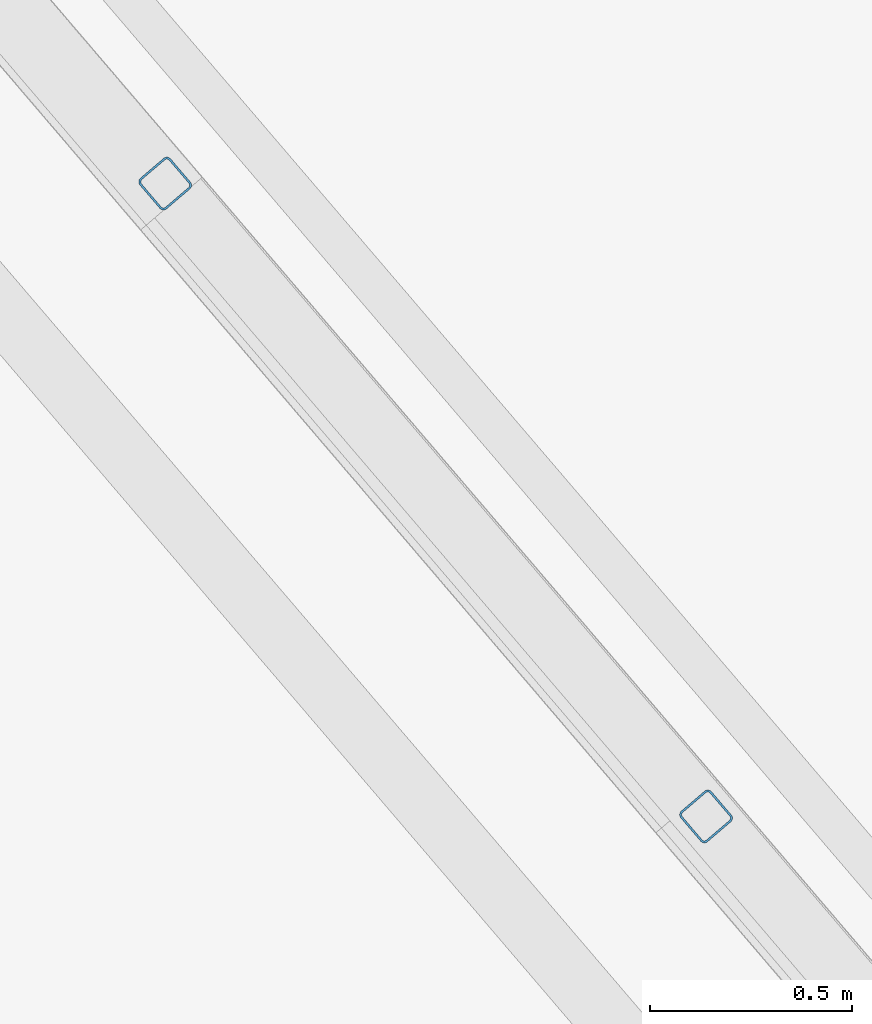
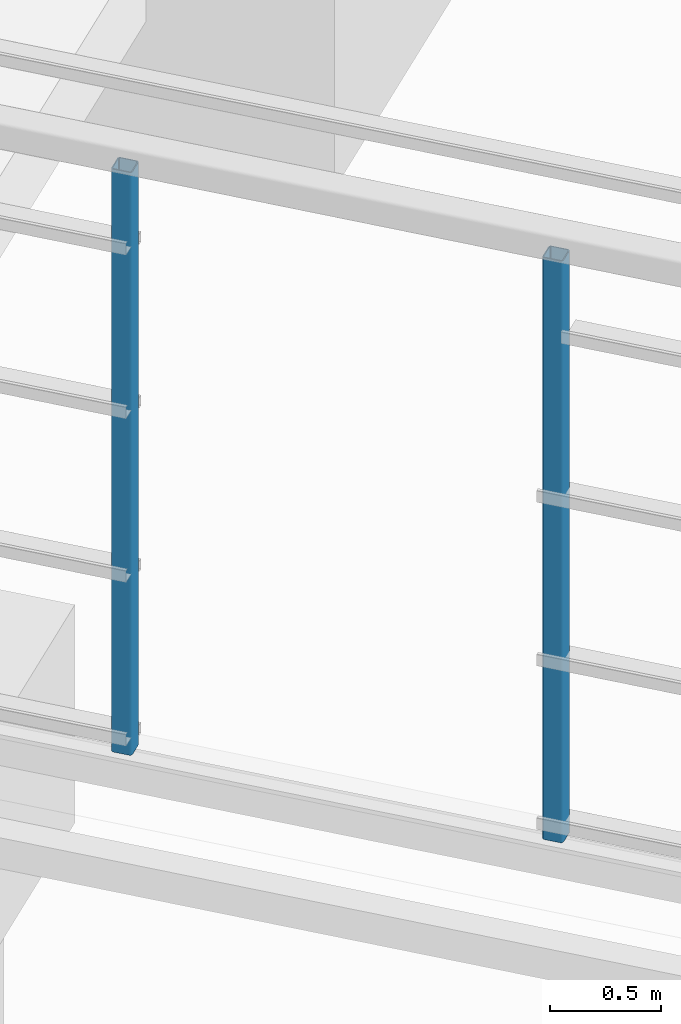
# One storey, part 4 of 41: 2 columns.
"""IFC2X3 building model written with IfcOpenShell, lengths in millimetres."""

from ifc_helpers import new_model, entity, si_unit, converted_unit, derived_unit, direction, frame, frame_2d, origin, place, context, subcontext, project, spatial, polyline, circle_curve, parameter, trimmed, segment, composite_curve, outline, extrude, source, transform, mapped, material, type_object, type_shapes, element, save


model = new_model("IFC2X3")

# Units and contexts
model_context = context("Model", 3, precision=0.01, world=origin(), true_north=direction((6.123031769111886e-17, 1.0)))
body_context = subcontext(model_context, "Body", "Model", "MODEL_VIEW")
ifc_project = project(units=[si_unit("LENGTHUNIT", "METRE", prefix="MILLI"), si_unit("AREAUNIT", "SQUARE_METRE"), si_unit("VOLUMEUNIT", "CUBIC_METRE"), converted_unit("PLANEANGLEUNIT", "DEGREE", entity("IfcRatioMeasure", 0.017453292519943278), si_unit("PLANEANGLEUNIT", "RADIAN"), dimensions=[0, 0, 0, 0, 0, 0, 0]), si_unit("MASSUNIT", "GRAM", prefix="KILO"), derived_unit("MASSDENSITYUNIT", [(si_unit("MASSUNIT", "GRAM", prefix="KILO"), 1), (si_unit("LENGTHUNIT", "METRE"), -3)]), derived_unit("MOMENTOFINERTIAUNIT", [(si_unit("LENGTHUNIT", "METRE"), 4)]), si_unit("TIMEUNIT", "SECOND"), si_unit("FREQUENCYUNIT", "HERTZ"), si_unit("THERMODYNAMICTEMPERATUREUNIT", "DEGREE_CELSIUS"), derived_unit("THERMALTRANSMITTANCEUNIT", [(si_unit("MASSUNIT", "GRAM", prefix="KILO"), 1), (si_unit("THERMODYNAMICTEMPERATUREUNIT", "KELVIN"), -1), (si_unit("TIMEUNIT", "SECOND"), -3)]), derived_unit("VOLUMETRICFLOWRATEUNIT", [(si_unit("LENGTHUNIT", "METRE"), 3), (si_unit("TIMEUNIT", "SECOND"), -1)]), derived_unit("MASSFLOWRATEUNIT", [(si_unit("MASSUNIT", "GRAM", prefix="KILO"), 1), (si_unit("TIMEUNIT", "SECOND"), -1)]), derived_unit("ROTATIONALFREQUENCYUNIT", [(si_unit("TIMEUNIT", "SECOND"), -1)]), si_unit("ELECTRICCURRENTUNIT", "AMPERE"), si_unit("ELECTRICVOLTAGEUNIT", "VOLT"), si_unit("POWERUNIT", "WATT"), si_unit("FORCEUNIT", "NEWTON", prefix="KILO"), si_unit("ILLUMINANCEUNIT", "LUX"), si_unit("LUMINOUSFLUXUNIT", "LUMEN"), si_unit("LUMINOUSINTENSITYUNIT", "CANDELA"), derived_unit("USERDEFINED", [(si_unit("MASSUNIT", "GRAM", prefix="KILO"), -1), (si_unit("LENGTHUNIT", "METRE"), -2), (si_unit("TIMEUNIT", "SECOND"), 3), (si_unit("LUMINOUSFLUXUNIT", "LUMEN"), 1)]), derived_unit("SOUNDPOWERUNIT", [(si_unit("MASSUNIT", "GRAM", prefix="KILO"), 1), (si_unit("LENGTHUNIT", "METRE"), 2), (si_unit("TIMEUNIT", "SECOND"), -3)]), derived_unit("LINEARVELOCITYUNIT", [(si_unit("LENGTHUNIT", "METRE"), 1), (si_unit("TIMEUNIT", "SECOND"), -1)]), si_unit("PRESSUREUNIT", "PASCAL"), derived_unit("USERDEFINED", [(si_unit("LENGTHUNIT", "METRE"), -2), (si_unit("MASSUNIT", "GRAM", prefix="KILO"), 1), (si_unit("TIMEUNIT", "SECOND"), -2)]), derived_unit("LINEARFORCEUNIT", [(si_unit("MASSUNIT", "GRAM", prefix="KILO"), 1), (si_unit("LENGTHUNIT", "METRE"), 1), (si_unit("TIMEUNIT", "SECOND"), -2), (si_unit("LENGTHUNIT", "METRE"), -1)]), derived_unit("PLANARFORCEUNIT", [(si_unit("MASSUNIT", "GRAM", prefix="KILO"), 1), (si_unit("LENGTHUNIT", "METRE"), 1), (si_unit("TIMEUNIT", "SECOND"), -2), (si_unit("LENGTHUNIT", "METRE"), -2)])], contexts=[model_context])

# Site, building, storey
site_placement = place(None, frame((962.4174930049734, -6014.433753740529, 0.0), z_axis=(0.0, 0.0, 1.0), x_axis=(0.7601792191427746, 0.649713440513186, 0.0)))
site = spatial("IfcSite", under=ifc_project, at=site_placement, Name="Default", CompositionType="ELEMENT")
building_placement = place(site_placement, origin())
building = spatial("IfcBuilding", under=site, at=building_placement, CompositionType="ELEMENT")
storey_placement = place(building_placement, origin())
storey = spatial("IfcBuildingStorey", under=building, at=storey_placement, Name="Datum", CompositionType="ELEMENT", Elevation=0.0)

# Columns
ifc_material = material(Name="Metal - Steel - 300 MPa")
column_type_1 = type_object("IfcColumnType", Name="ADSK_AU_SHS-Square Hollow Sections-Column (AS 1163_C350):100x100x5.0SHS", PredefinedType="COLUMN", material=ifc_material)
shared_shape_1 = source(origin(), body_context, "Body", "SweptSolid", [
    extrude(outline(composite_curve([segment(trimmed(circle_curve(frame_2d((37.499999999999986, -37.50000000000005), x_axis=(1.0, 0.0)), 12.499999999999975), [parameter(270.0000000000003)], [parameter(3.5622212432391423e-13)], True, "PARAMETER"), True, "CONTINUOUS"), segment(polyline([(50.0, -37.50000000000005), (50.0, 37.49999999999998)]), True, "CONTINUOUS"), segment(trimmed(circle_curve(frame_2d((37.499999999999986, 37.49999999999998), x_axis=(1.0, 0.0)), 12.499999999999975), [parameter(4.0711099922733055e-13)], [parameter(90.00000000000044)], True, "PARAMETER"), True, "CONTINUOUS"), segment(polyline([(37.499999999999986, 50.0), (-37.49999999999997, 50.0)]), True, "CONTINUOUS"), segment(trimmed(circle_curve(frame_2d((-37.499999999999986, 37.499999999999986), x_axis=(1.0, 0.0)), 12.499999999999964), [parameter(90.00000000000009)], [parameter(179.99999999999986)], True, "PARAMETER"), True, "CONTINUOUS"), segment(polyline([(-50.0, 37.50000000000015), (-50.0, -37.50000000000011)]), True, "CONTINUOUS"), segment(trimmed(circle_curve(frame_2d((-37.499999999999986, -37.500000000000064), x_axis=(1.0, 0.0)), 12.499999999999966), [parameter(179.99999999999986)], [parameter(269.9999999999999)], True, "PARAMETER"), True, "CONTINUOUS"), segment(polyline([(-37.50000000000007, -50.0), (37.50000000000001, -50.0)]), True, "CONTINUOUS")], self_intersect=False), holes=[composite_curve([segment(polyline([(37.49999999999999, -45.0), (-37.50000000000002, -45.0)]), True, "CONTINUOUS"), segment(trimmed(circle_curve(frame_2d((-37.499999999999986, -37.500000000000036), x_axis=(1.0, 0.0)), 7.500000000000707), [parameter(179.9999999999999)], [parameter(269.99999999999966)], True, "PARAMETER"), False, "CONTINUOUS"), segment(polyline([(-45.0, -37.500000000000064), (-45.0, 37.49999999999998)]), True, "CONTINUOUS"), segment(trimmed(circle_curve(frame_2d((-37.499999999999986, 37.499999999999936), x_axis=(1.0, 0.0)), 7.499999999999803), [parameter(89.99999999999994)], [parameter(179.9999999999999)], True, "PARAMETER"), False, "CONTINUOUS"), segment(polyline([(-37.50000000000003, 45.0), (37.50000000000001, 45.0)]), True, "CONTINUOUS"), segment(trimmed(circle_curve(frame_2d((37.499999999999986, 37.499999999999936), x_axis=(1.0, 0.0)), 7.499999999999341), [parameter(3.053332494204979e-13)], [parameter(89.99999999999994)], True, "PARAMETER"), False, "CONTINUOUS"), segment(polyline([(45.0, 37.49999999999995), (45.0, -37.50000000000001)]), True, "CONTINUOUS"), segment(trimmed(circle_curve(frame_2d((37.499999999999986, -37.500000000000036), x_axis=(1.0, 0.0)), 7.500000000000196), [parameter(270.00000000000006)], [parameter(2.0355549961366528e-13)], True, "PARAMETER"), False, "CONTINUOUS")], self_intersect=False)]), origin(), (0.0, 0.0, 1.0), 3200.0),
])
type_shapes(column_type_1, [shared_shape_1])
column_1_placement = place(storey_placement, frame((154187.96020470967, -961.4280821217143, 0.0), z_axis=(0.0, 0.0, 1.0), x_axis=(0.0, -1.0, 0.0)))
element("IfcColumn", 1, at=column_1_placement, inside=storey, type_object=column_type_1, material=ifc_material, Name="ADSK_AU_SHS-Square Hollow Sections-Column (AS 1163_C350):100x100x5.0SHS", ObjectType="ADSK_AU_SHS-Square Hollow Sections-Column (AS 1163_C350):100x100x5.0SHS", context=body_context, shape_type="MappedRepresentation", body=[
    mapped(shared_shape_1, transform((0.0, 0.0, 0.0), scale=1.0)),
])
column_type_2 = type_object("IfcColumnType", Name="ADSK_AU_SHS-Square Hollow Sections-Column (AS 1163_C350):100x100x5.0SHS", PredefinedType="COLUMN", material=ifc_material)
shared_shape_2 = source(origin(), body_context, "Body", "SweptSolid", [
    extrude(outline(composite_curve([segment(trimmed(circle_curve(frame_2d((37.499999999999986, -37.50000000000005), x_axis=(1.0, 0.0)), 12.499999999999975), [parameter(270.0000000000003)], [parameter(3.5622212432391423e-13)], True, "PARAMETER"), True, "CONTINUOUS"), segment(polyline([(50.0, -37.50000000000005), (50.0, 37.49999999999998)]), True, "CONTINUOUS"), segment(trimmed(circle_curve(frame_2d((37.499999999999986, 37.49999999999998), x_axis=(1.0, 0.0)), 12.499999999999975), [parameter(4.0711099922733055e-13)], [parameter(90.00000000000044)], True, "PARAMETER"), True, "CONTINUOUS"), segment(polyline([(37.499999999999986, 50.0), (-37.49999999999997, 50.0)]), True, "CONTINUOUS"), segment(trimmed(circle_curve(frame_2d((-37.499999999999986, 37.499999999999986), x_axis=(1.0, 0.0)), 12.499999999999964), [parameter(90.00000000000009)], [parameter(179.99999999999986)], True, "PARAMETER"), True, "CONTINUOUS"), segment(polyline([(-50.0, 37.50000000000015), (-50.0, -37.50000000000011)]), True, "CONTINUOUS"), segment(trimmed(circle_curve(frame_2d((-37.499999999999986, -37.500000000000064), x_axis=(1.0, 0.0)), 12.499999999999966), [parameter(179.99999999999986)], [parameter(269.9999999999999)], True, "PARAMETER"), True, "CONTINUOUS"), segment(polyline([(-37.50000000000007, -50.0), (37.50000000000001, -50.0)]), True, "CONTINUOUS")], self_intersect=False), holes=[composite_curve([segment(polyline([(37.49999999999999, -45.0), (-37.50000000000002, -45.0)]), True, "CONTINUOUS"), segment(trimmed(circle_curve(frame_2d((-37.499999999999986, -37.500000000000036), x_axis=(1.0, 0.0)), 7.500000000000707), [parameter(179.9999999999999)], [parameter(269.99999999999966)], True, "PARAMETER"), False, "CONTINUOUS"), segment(polyline([(-45.0, -37.500000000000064), (-45.0, 37.49999999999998)]), True, "CONTINUOUS"), segment(trimmed(circle_curve(frame_2d((-37.499999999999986, 37.499999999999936), x_axis=(1.0, 0.0)), 7.499999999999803), [parameter(89.99999999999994)], [parameter(179.9999999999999)], True, "PARAMETER"), False, "CONTINUOUS"), segment(polyline([(-37.50000000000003, 45.0), (37.50000000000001, 45.0)]), True, "CONTINUOUS"), segment(trimmed(circle_curve(frame_2d((37.499999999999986, 37.499999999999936), x_axis=(1.0, 0.0)), 7.499999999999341), [parameter(3.053332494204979e-13)], [parameter(89.99999999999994)], True, "PARAMETER"), False, "CONTINUOUS"), segment(polyline([(45.0, 37.49999999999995), (45.0, -37.50000000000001)]), True, "CONTINUOUS"), segment(trimmed(circle_curve(frame_2d((37.499999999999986, -37.500000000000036), x_axis=(1.0, 0.0)), 7.500000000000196), [parameter(270.00000000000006)], [parameter(2.0355549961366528e-13)], True, "PARAMETER"), False, "CONTINUOUS")], self_intersect=False)]), origin(), (0.0, 0.0, 1.0), 3206.0),
])
type_shapes(column_type_2, [shared_shape_2])
column_2_placement = place(storey_placement, frame((154187.96020470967, 1098.571917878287, 0.0), z_axis=(0.0, 0.0, 1.0), x_axis=(0.0, -1.0, 0.0)))
element("IfcColumn", 2, at=column_2_placement, inside=storey, type_object=column_type_2, material=ifc_material, Name="ADSK_AU_SHS-Square Hollow Sections-Column (AS 1163_C350):100x100x5.0SHS", ObjectType="ADSK_AU_SHS-Square Hollow Sections-Column (AS 1163_C350):100x100x5.0SHS", context=body_context, shape_type="MappedRepresentation", body=[
    mapped(shared_shape_2, transform((0.0, 0.0, 0.0), scale=1.0)),
])

save(model, "model.ifc")
